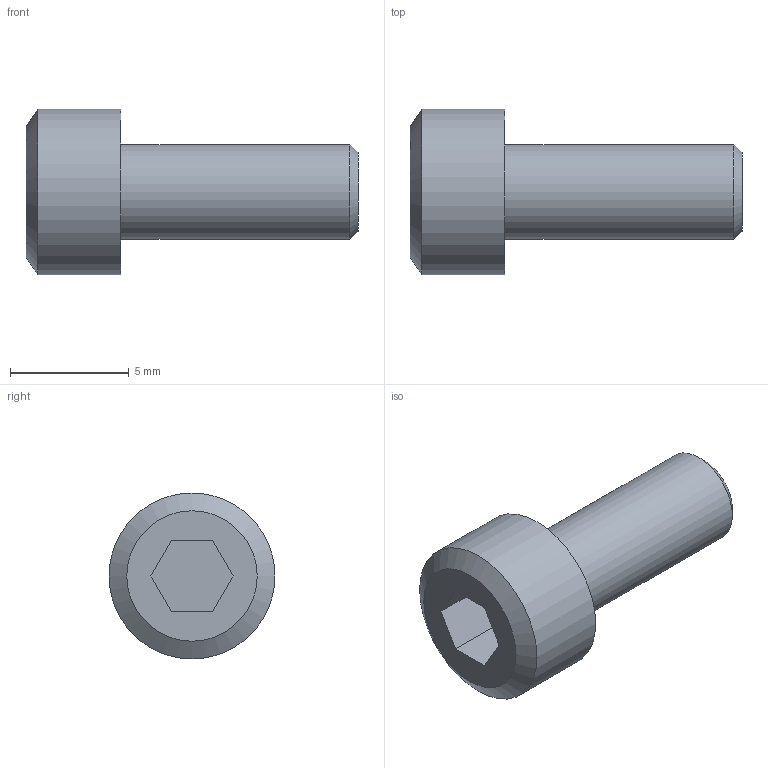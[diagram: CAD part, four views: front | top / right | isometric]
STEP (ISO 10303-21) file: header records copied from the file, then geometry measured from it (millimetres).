
FILE_DESCRIPTION( ( 'STEP AP203' ), '1' );
FILE_NAME( 'C:/CS-04.stp', '2013-10-20T23:43:58', ( ' ' ), ( ' ' ), 'XStep 1.0', ' ', ' ' );
FILE_SCHEMA( ( 'CONFIG_CONTROL_DESIGN' ) );
Length unit declared in the file: metre
Products named in the file (1): 1
Bounding box: 14 x 7 x 7 mm (x, y, z)
Volume: 254.3 mm3; surface area: 311.6 mm2
Topology: 1 solids, 1 shells, 14 faces, 28 edges, 18 vertices
Faces by surface type: bspline 14
Entity records: 448 total; most frequent: CARTESIAN_POINT 169, ORIENTED_EDGE 48, DIRECTION 30, EDGE_CURVE 24, EDGE_LOOP 20, FACE_OUTER_BOUND 18, VERTEX_POINT 18, LINE 16
